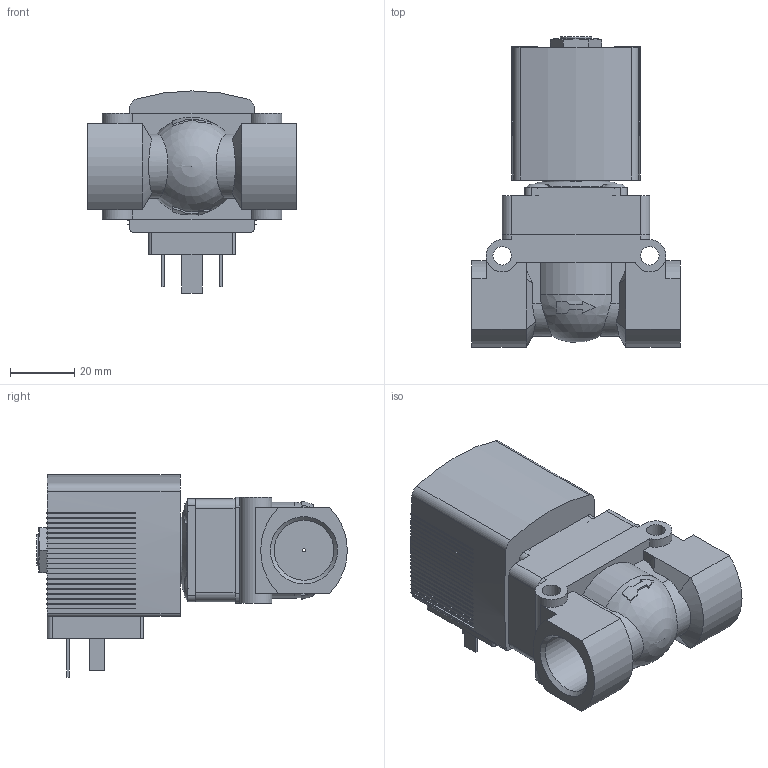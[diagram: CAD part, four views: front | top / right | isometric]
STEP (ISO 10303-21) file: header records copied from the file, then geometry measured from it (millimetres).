
FILE_DESCRIPTION(/* description */ ('STEP AP214'),/* implementation_level */ '2;1');
FILE_NAME(/* name */ '5404-293563-Servo-assisted_2_2_way_piston_valve',/* time_stamp */ '2024-02-27T12:37:12+01:00',/* author */ ('License CC BY-ND 4.0'),/* organization */ ('CADENAS'),/* preprocessor_version */ 'ST-DEVELOPER v19.3',/* originating_system */ 'PARTsolutions',/* authorisation */ ' ');
FILE_SCHEMA (('AUTOMOTIVE_DESIGN {1 0 10303 214 3 1 1}'));
Length unit declared in the file: millimetre
Products named in the file (4): 5404-293563-Servo-assisted 2/2 way piston valve; 5282g-8412MS000-2/2-Wege-Magnetventil_Gehaeuse; 5282d-12MSAU3N-2/2-Wege-Magnetventil_Deckel; AC10ex-6OO-Plan-Coil
Assembly tree (3 placements, depth 2):
  5404-293563-Servo-assisted 2/2 way piston valve
    5282g-8412MS000-2/2-Wege-Magnetventil_Gehaeuse
    5282d-12MSAU3N-2/2-Wege-Magnetventil_Deckel
    AC10ex-6OO-Plan-Coil
Bounding box: 65 x 96.8 x 63 mm (x, y, z)
Volume: 141437.6 mm3; surface area: 31165.2 mm2
Topology: 3 solids, 3 shells, 432 faces, 1196 edges, 790 vertices
Faces by surface type: plane 351, cylinder 57, cone 16, torus 5, sphere 3
Full cylindrical faces by diameter (mm): 1 x1, 2.013 x1, 4 x4, 5.8 x2, 7.5 x4, 7.6 x4, 9.74 x1, 18.631 x2, 21 x1
Entity records: 15701 total; most frequent: CARTESIAN_POINT 2500, ORIENTED_EDGE 2312, DIRECTION 2262, EDGE_CURVE 1156, LINE 858, VECTOR 858, VERTEX_POINT 780, AXIS2_PLACEMENT_3D 702
